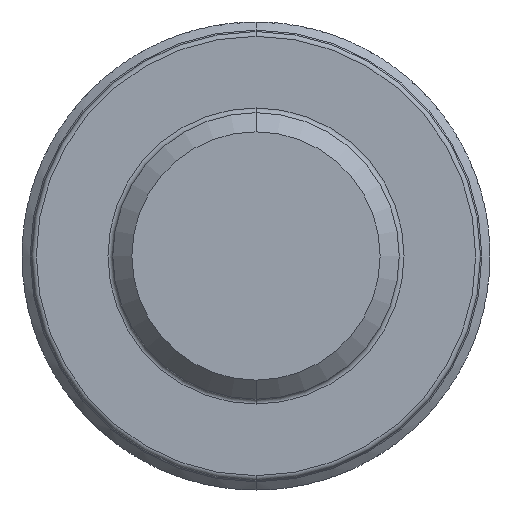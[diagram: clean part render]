
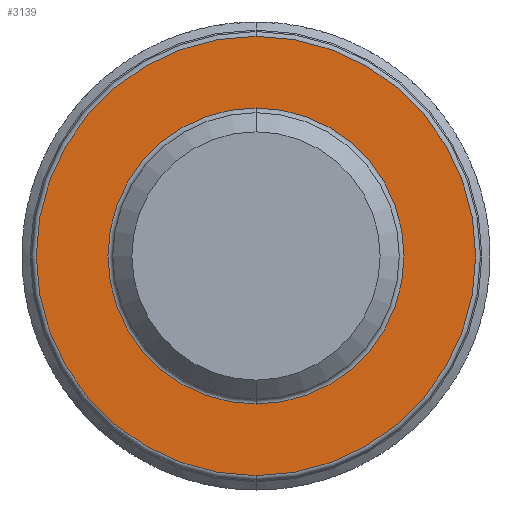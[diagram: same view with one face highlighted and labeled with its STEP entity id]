
A CAD part, front view. The second image highlights one B-rep face of the part: STEP entity #3139.
In plain terms, the highlighted planar face has unit normal (0, -1, 0).
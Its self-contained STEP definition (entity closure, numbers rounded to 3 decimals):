
#2 = AXIS2_PLACEMENT_3D ( 'NONE', #8080, #4075, #6193 ) ;
#147 = DIRECTION ( 'NONE',  ( 0., 0., -1. ) ) ;
#294 = DIRECTION ( 'NONE',  ( 0., -1., 0. ) ) ;
#343 = CARTESIAN_POINT ( 'NONE',  ( 0., -6., 3.1 ) ) ;
#537 = CARTESIAN_POINT ( 'NONE',  ( 0., -6., 0. ) ) ;
#1211 = DIRECTION ( 'NONE',  ( 0., -1., 0. ) ) ;
#1260 = CARTESIAN_POINT ( 'NONE',  ( 0., -6., 0. ) ) ;
#1323 = ORIENTED_EDGE ( 'NONE', *, *, #7844, .T. ) ;
#1360 = CARTESIAN_POINT ( 'NONE',  ( 0., -6., 4.6 ) ) ;
#2078 = VERTEX_POINT ( 'NONE', #1360 ) ;
#2114 = CARTESIAN_POINT ( 'NONE',  ( 0., -6., -4.6 ) ) ;
#2160 = CIRCLE ( 'NONE', #2, 3.1 ) ;
#2338 = EDGE_LOOP ( 'NONE', ( #4561, #1323 ) ) ;
#3138 = VERTEX_POINT ( 'NONE', #4744 ) ;
#3139 = ADVANCED_FACE ( 'NONE', ( #6198, #6156 ), #5470, .T. ) ;
#3272 = AXIS2_PLACEMENT_3D ( 'NONE', #7722, #4211, #147 ) ;
#3444 = EDGE_CURVE ( 'NONE', #3138, #4974, #5855, .T. ) ;
#3894 = DIRECTION ( 'NONE',  ( 0., 0., -1. ) ) ;
#3993 = AXIS2_PLACEMENT_3D ( 'NONE', #537, #6006, #8755 ) ;
#4075 = DIRECTION ( 'NONE',  ( 0., 1., 0. ) ) ;
#4211 = DIRECTION ( 'NONE',  ( 0., -1., 0. ) ) ;
#4366 = EDGE_CURVE ( 'NONE', #2078, #5646, #5977, .T. ) ;
#4484 = DIRECTION ( 'NONE',  ( 0., 0., -1. ) ) ;
#4561 = ORIENTED_EDGE ( 'NONE', *, *, #3444, .T. ) ;
#4707 = AXIS2_PLACEMENT_3D ( 'NONE', #1260, #1211, #3894 ) ;
#4744 = CARTESIAN_POINT ( 'NONE',  ( 0., -6., -3.1 ) ) ;
#4974 = VERTEX_POINT ( 'NONE', #343 ) ;
#5470 = PLANE ( 'NONE',  #3272 ) ;
#5506 = EDGE_LOOP ( 'NONE', ( #7377, #5784 ) ) ;
#5646 = VERTEX_POINT ( 'NONE', #2114 ) ;
#5784 = ORIENTED_EDGE ( 'NONE', *, *, #4366, .T. ) ;
#5855 = CIRCLE ( 'NONE', #3993, 3.1 ) ;
#5934 = CARTESIAN_POINT ( 'NONE',  ( 0., -6., 0. ) ) ;
#5977 = CIRCLE ( 'NONE', #8128, 4.6 ) ;
#6006 = DIRECTION ( 'NONE',  ( 0., 1., 0. ) ) ;
#6156 = FACE_OUTER_BOUND ( 'NONE', #5506, .T. ) ;
#6193 = DIRECTION ( 'NONE',  ( 0., 0., -1. ) ) ;
#6198 = FACE_BOUND ( 'NONE', #2338, .T. ) ;
#7377 = ORIENTED_EDGE ( 'NONE', *, *, #8073, .T. ) ;
#7722 = CARTESIAN_POINT ( 'NONE',  ( 3., -6., 0. ) ) ;
#7844 = EDGE_CURVE ( 'NONE', #4974, #3138, #2160, .T. ) ;
#8073 = EDGE_CURVE ( 'NONE', #5646, #2078, #8313, .T. ) ;
#8080 = CARTESIAN_POINT ( 'NONE',  ( 0., -6., 0. ) ) ;
#8128 = AXIS2_PLACEMENT_3D ( 'NONE', #5934, #294, #4484 ) ;
#8313 = CIRCLE ( 'NONE', #4707, 4.6 ) ;
#8755 = DIRECTION ( 'NONE',  ( 0., 0., -1. ) ) ;
